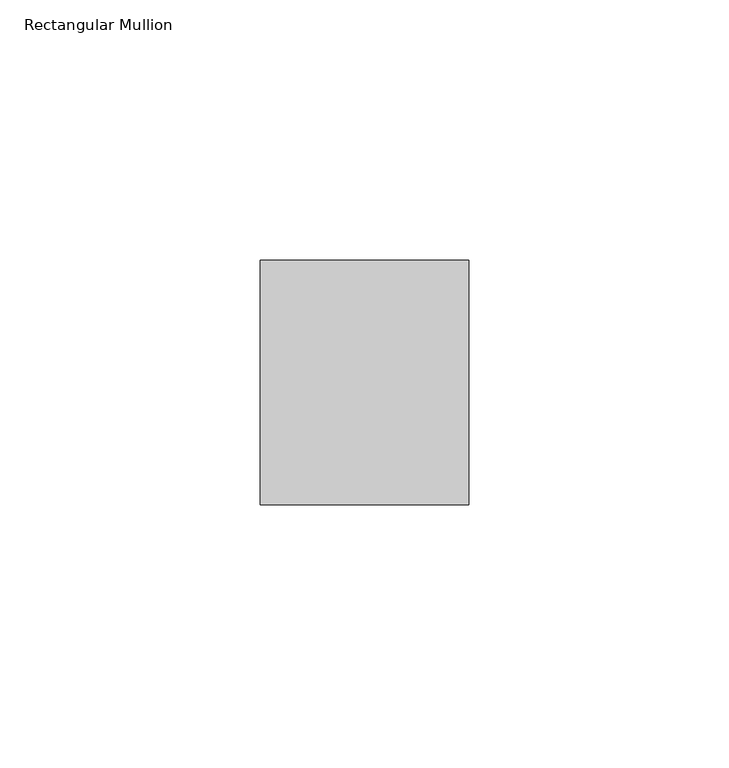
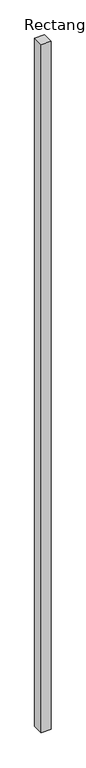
"""IFC4 building model written with IfcOpenShell, lengths in millimetres: member geometry, Rectangular Mullion : RSen_21_CWM_support profile - 40x47 - right_gen_duco projects."""

from ifc_helpers import new_model, si_unit, frame, origin, place, context, project, spatial, polyline, outline, extrude, source, transform, mapped, element, save


def rectangular_mullion_da718602(model_context):
    return source(origin(), model_context, "Body", "SweptSolid", [
        extrude(outline(polyline([(-90.0, 1.0), (-50.0, 1.0), (-50.0, -46.0), (-90.0, -46.0), (-90.0, 1.0)])), frame((0.0, 0.0, -3000.0), z_axis=(0.0, 0.0, 1.0), x_axis=(1.0, 0.0, 0.0)), (0.0, 0.0, 1.0), 3000.0),
    ])


if __name__ == "__main__":
    model = new_model("IFC4")
    model_context = context("Model", 3, world=origin())
    ifc_project = project(units=[si_unit("LENGTHUNIT", "METRE", prefix="MILLI")], contexts=[model_context])
    site = spatial("IfcSite", under=ifc_project)
    building = spatial("IfcBuilding", under=site)
    placement = place(None, origin())
    rectangular_mullion_shape = rectangular_mullion_da718602(model_context)
    element("IfcMember", 1, ObjectType="Rectangular Mullion : RSen_21_CWM_support profile - 40x47 - right_gen_duco projects", at=placement, inside=building, context=model_context, shape_type="MappedRepresentation", body=[
        mapped(rectangular_mullion_shape, transform((0.0, 0.0, 0.0), x_axis=(1.0, 0.0, 0.0), y_axis=(0.0, 1.0, 0.0), z_axis=(0.0, 0.0, 1.0))),
    ])
    save(model, "model.ifc")
